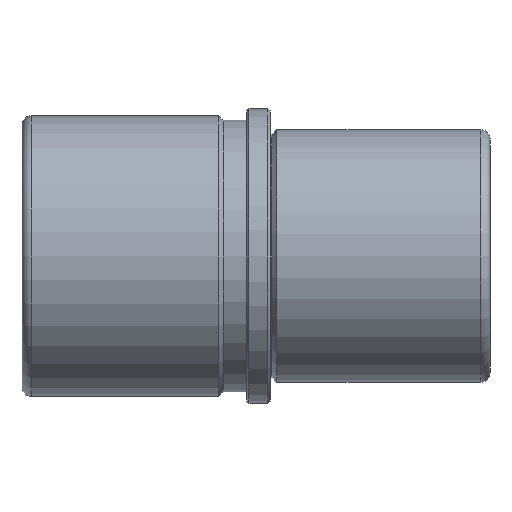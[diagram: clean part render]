
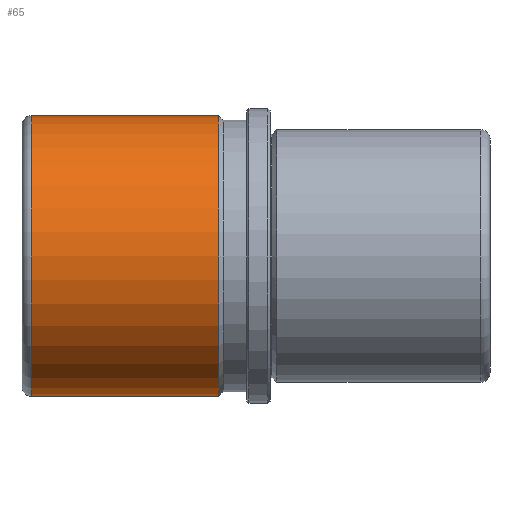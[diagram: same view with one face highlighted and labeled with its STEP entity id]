
A CAD part, front view. The second image highlights one B-rep face of the part: STEP entity #65.
In plain terms, the highlighted cylindrical face has radius 30 mm (diameter 60 mm), a full revolution.
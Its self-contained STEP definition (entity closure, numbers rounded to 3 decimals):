
#65 = ADVANCED_FACE( '', ( #145, #146, #147 ), #148, .T. );
#145 = FACE_OUTER_BOUND( '', #238, .T. );
#146 = FACE_BOUND( '', #239, .T. );
#147 = FACE_OUTER_BOUND( '', #240, .T. );
#148 = CYLINDRICAL_SURFACE( '', #241, 30. );
#238 = EDGE_LOOP( '', ( #345 ) );
#239 = EDGE_LOOP( '', ( #346 ) );
#240 = EDGE_LOOP( '', ( #347 ) );
#241 = AXIS2_PLACEMENT_3D( '', #348, #349, #350 );
#345 = ORIENTED_EDGE( '', *, *, #438, .T. );
#346 = ORIENTED_EDGE( '', *, *, #439, .T. );
#347 = ORIENTED_EDGE( '', *, *, #431, .F. );
#348 = CARTESIAN_POINT( '', ( 47., 0., 0. ) );
#349 = DIRECTION( '', ( -1., 0., 0. ) );
#350 = DIRECTION( '', ( 0., 0., -1. ) );
#431 = EDGE_CURVE( '', #486, #486, #487, .T. );
#438 = EDGE_CURVE( '', #497, #497, #498, .T. );
#439 = EDGE_CURVE( '', #499, #499, #500, .T. );
#486 = VERTEX_POINT( '', #616 );
#487 = CIRCLE( '', #617, 30. );
#497 = VERTEX_POINT( '', #627 );
#498 = CIRCLE( '', #628, 30. );
#499 = VERTEX_POINT( '', #629 );
#500 = B_SPLINE_CURVE_WITH_KNOTS( '', 3, ( #630, #631, #632, #633, #634, #635, #636, #637, #638, #639, #640, #641, #642, #643, #644, #645, #646, #647, #648, #649, #650, #651, #652, #653, #654, #655, #656, #657, #658, #659, #660, #661, #662, #663, #664, #665, #666, #667, #668, #669, #670, #671, #672, #673, #674, #675, #676, #677, #678, #679, #680, #681, #682, #683, #684, #685, #686, #687, #688, #689, #690, #691, #692, #693, #694, #695 ), .UNSPECIFIED., .T., .F., ( 2, 2, 2, 2, 2, 2, 2, 2, 2, 2, 2, 2, 2, 2, 2, 2, 2, 2, 2, 2, 2, 2, 2, 2, 2, 2, 2, 2, 2, 2, 2, 2, 2, 2, 2 ), ( -0.001, 0., 0.001, 0.002, 0.002, 0.003, 0.004, 0.005, 0.006, 0.007, 0.007, 0.008, 0.009, 0.01, 0.011, 0.011, 0.012, 0.013, 0.014, 0.015, 0.016, 0.016, 0.017, 0.018, 0.019, 0.02, 0.02, 0.021, 0.022, 0.023, 0.024, 0.025, 0.025, 0.026, 0.027 ), .UNSPECIFIED. );
#616 = CARTESIAN_POINT( '', ( -11., 0., -30. ) );
#617 = AXIS2_PLACEMENT_3D( '', #747, #748, #749 );
#627 = CARTESIAN_POINT( '', ( -51., 0., -30. ) );
#628 = AXIS2_PLACEMENT_3D( '', #759, #760, #761 );
#629 = CARTESIAN_POINT( '', ( -18., 29.706, -4.188 ) );
#630 = CARTESIAN_POINT( '', ( -18.277, 29.706, -4.188 ) );
#631 = CARTESIAN_POINT( '', ( -17.723, 29.706, -4.188 ) );
#632 = CARTESIAN_POINT( '', ( -17.451, 29.71, -4.161 ) );
#633 = CARTESIAN_POINT( '', ( -16.915, 29.725, -4.054 ) );
#634 = CARTESIAN_POINT( '', ( -16.649, 29.736, -3.974 ) );
#635 = CARTESIAN_POINT( '', ( -16.142, 29.763, -3.763 ) );
#636 = CARTESIAN_POINT( '', ( -15.901, 29.779, -3.635 ) );
#637 = CARTESIAN_POINT( '', ( -15.446, 29.815, -3.331 ) );
#638 = CARTESIAN_POINT( '', ( -15.231, 29.834, -3.154 ) );
#639 = CARTESIAN_POINT( '', ( -14.845, 29.873, -2.768 ) );
#640 = CARTESIAN_POINT( '', ( -14.672, 29.892, -2.557 ) );
#641 = CARTESIAN_POINT( '', ( -14.366, 29.927, -2.1 ) );
#642 = CARTESIAN_POINT( '', ( -14.236, 29.944, -1.857 ) );
#643 = CARTESIAN_POINT( '', ( -14.027, 29.971, -1.353 ) );
#644 = CARTESIAN_POINT( '', ( -13.947, 29.981, -1.089 ) );
#645 = CARTESIAN_POINT( '', ( -13.839, 29.996, -0.548 ) );
#646 = CARTESIAN_POINT( '', ( -13.812, 30., -0.276 ) );
#647 = CARTESIAN_POINT( '', ( -13.812, 30., 0.271 ) );
#648 = CARTESIAN_POINT( '', ( -13.839, 29.996, 0.549 ) );
#649 = CARTESIAN_POINT( '', ( -13.946, 29.982, 1.086 ) );
#650 = CARTESIAN_POINT( '', ( -14.025, 29.971, 1.348 ) );
#651 = CARTESIAN_POINT( '', ( -14.235, 29.944, 1.855 ) );
#652 = CARTESIAN_POINT( '', ( -14.366, 29.927, 2.1 ) );
#653 = CARTESIAN_POINT( '', ( -14.669, 29.892, 2.553 ) );
#654 = CARTESIAN_POINT( '', ( -14.842, 29.873, 2.765 ) );
#655 = CARTESIAN_POINT( '', ( -15.233, 29.834, 3.156 ) );
#656 = CARTESIAN_POINT( '', ( -15.444, 29.815, 3.329 ) );
#657 = CARTESIAN_POINT( '', ( -15.897, 29.78, 3.632 ) );
#658 = CARTESIAN_POINT( '', ( -16.142, 29.763, 3.763 ) );
#659 = CARTESIAN_POINT( '', ( -16.649, 29.736, 3.974 ) );
#660 = CARTESIAN_POINT( '', ( -16.91, 29.725, 4.053 ) );
#661 = CARTESIAN_POINT( '', ( -17.447, 29.71, 4.16 ) );
#662 = CARTESIAN_POINT( '', ( -17.725, 29.706, 4.188 ) );
#663 = CARTESIAN_POINT( '', ( -18.272, 29.706, 4.188 ) );
#664 = CARTESIAN_POINT( '', ( -18.544, 29.71, 4.162 ) );
#665 = CARTESIAN_POINT( '', ( -19.085, 29.725, 4.054 ) );
#666 = CARTESIAN_POINT( '', ( -19.349, 29.736, 3.974 ) );
#667 = CARTESIAN_POINT( '', ( -19.853, 29.763, 3.766 ) );
#668 = CARTESIAN_POINT( '', ( -20.097, 29.779, 3.635 ) );
#669 = CARTESIAN_POINT( '', ( -20.555, 29.815, 3.33 ) );
#670 = CARTESIAN_POINT( '', ( -20.765, 29.834, 3.157 ) );
#671 = CARTESIAN_POINT( '', ( -21.152, 29.872, 2.771 ) );
#672 = CARTESIAN_POINT( '', ( -21.329, 29.892, 2.556 ) );
#673 = CARTESIAN_POINT( '', ( -21.633, 29.927, 2.102 ) );
#674 = CARTESIAN_POINT( '', ( -21.762, 29.943, 1.862 ) );
#675 = CARTESIAN_POINT( '', ( -21.972, 29.97, 1.354 ) );
#676 = CARTESIAN_POINT( '', ( -22.053, 29.981, 1.089 ) );
#677 = CARTESIAN_POINT( '', ( -22.16, 29.996, 0.553 ) );
#678 = CARTESIAN_POINT( '', ( -22.188, 30., 0.281 ) );
#679 = CARTESIAN_POINT( '', ( -22.188, 30., -0.273 ) );
#680 = CARTESIAN_POINT( '', ( -22.161, 29.996, -0.546 ) );
#681 = CARTESIAN_POINT( '', ( -22.055, 29.982, -1.081 ) );
#682 = CARTESIAN_POINT( '', ( -21.975, 29.971, -1.348 ) );
#683 = CARTESIAN_POINT( '', ( -21.765, 29.944, -1.855 ) );
#684 = CARTESIAN_POINT( '', ( -21.636, 29.928, -2.095 ) );
#685 = CARTESIAN_POINT( '', ( -21.333, 29.892, -2.551 ) );
#686 = CARTESIAN_POINT( '', ( -21.156, 29.873, -2.766 ) );
#687 = CARTESIAN_POINT( '', ( -20.771, 29.835, -3.152 ) );
#688 = CARTESIAN_POINT( '', ( -20.56, 29.816, -3.326 ) );
#689 = CARTESIAN_POINT( '', ( -20.103, 29.78, -3.632 ) );
#690 = CARTESIAN_POINT( '', ( -19.86, 29.763, -3.762 ) );
#691 = CARTESIAN_POINT( '', ( -19.356, 29.736, -3.972 ) );
#692 = CARTESIAN_POINT( '', ( -19.092, 29.725, -4.053 ) );
#693 = CARTESIAN_POINT( '', ( -18.551, 29.71, -4.161 ) );
#694 = CARTESIAN_POINT( '', ( -18.277, 29.706, -4.188 ) );
#695 = CARTESIAN_POINT( '', ( -17.723, 29.706, -4.188 ) );
#747 = CARTESIAN_POINT( '', ( -11., 0., 0. ) );
#748 = DIRECTION( '', ( 1., 0., 0. ) );
#749 = DIRECTION( '', ( 0., 0., -1. ) );
#759 = CARTESIAN_POINT( '', ( -51., 0., 0. ) );
#760 = DIRECTION( '', ( 1., 0., 0. ) );
#761 = DIRECTION( '', ( 0., 0., -1. ) );
